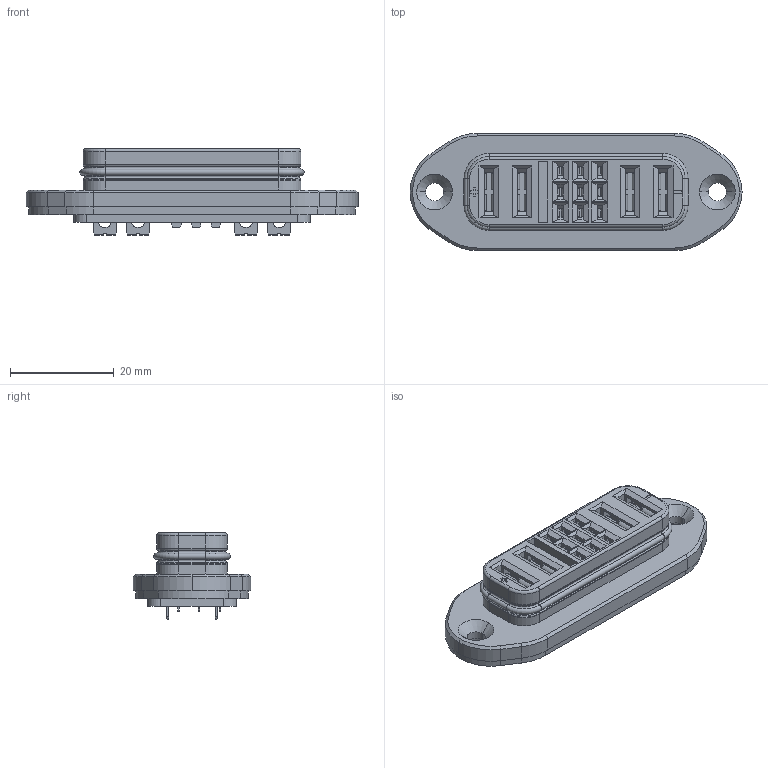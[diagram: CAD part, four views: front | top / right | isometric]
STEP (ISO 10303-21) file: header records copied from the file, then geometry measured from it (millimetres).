
FILE_DESCRIPTION((''),'2;1');
FILE_NAME('304B-3813SG4_ASM','2026-07-23T',('fros.liao'),(''),'CREO PARAMETRIC BY PTC INC, 2018360','CREO PARAMETRIC BY PTC INC, 2018360','');
FILE_SCHEMA(('CONFIG_CONTROL_DESIGN'));
Length unit declared in the file: millimetre
Products named in the file (8): T1-4P9S_FEMALE_WTW_10; T5-SN0017-2000X_1; T5-SN0017-1000X_1; T2-4P9S_4; 0-RING_1; FEMALE_RUBBER_1; 4P9S_FEMALE-WTW_ASM_8_ASM; 304B-3813SG4_ASM
Assembly tree (18 placements, depth 3):
  304B-3813SG4_ASM
    4P9S_FEMALE-WTW_ASM_8_ASM
      T1-4P9S_FEMALE_WTW_10
      T5-SN0017-2000X_1  x4
      T5-SN0017-1000X_1  x9
      T2-4P9S_4
      0-RING_1
      FEMALE_RUBBER_1
Bounding box: 64 x 22.6 x 16.7 mm (x, y, z)
Volume: 7315.4 mm3; surface area: 12908.4 mm2
Topology: 17 solids, 19 shells, 2142 faces, 5923 edges, 3831 vertices
Faces by surface type: plane 1461, cylinder 629, torus 32, cone 20
Entity records: 34137 total; most frequent: CARTESIAN_POINT 6036, ORIENTED_EDGE 5876, DIRECTION 5654, EDGE_CURVE 2938, VECTOR 2482, LINE 2482, VERTEX_POINT 1867, AXIS2_PLACEMENT_3D 1586
